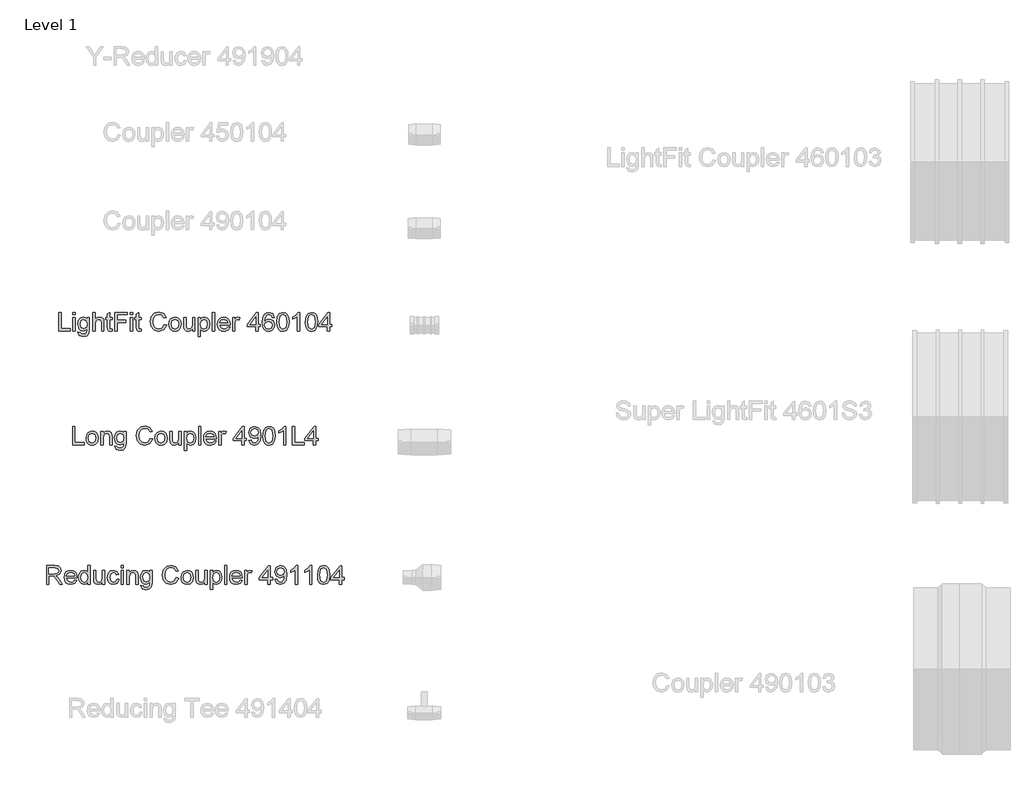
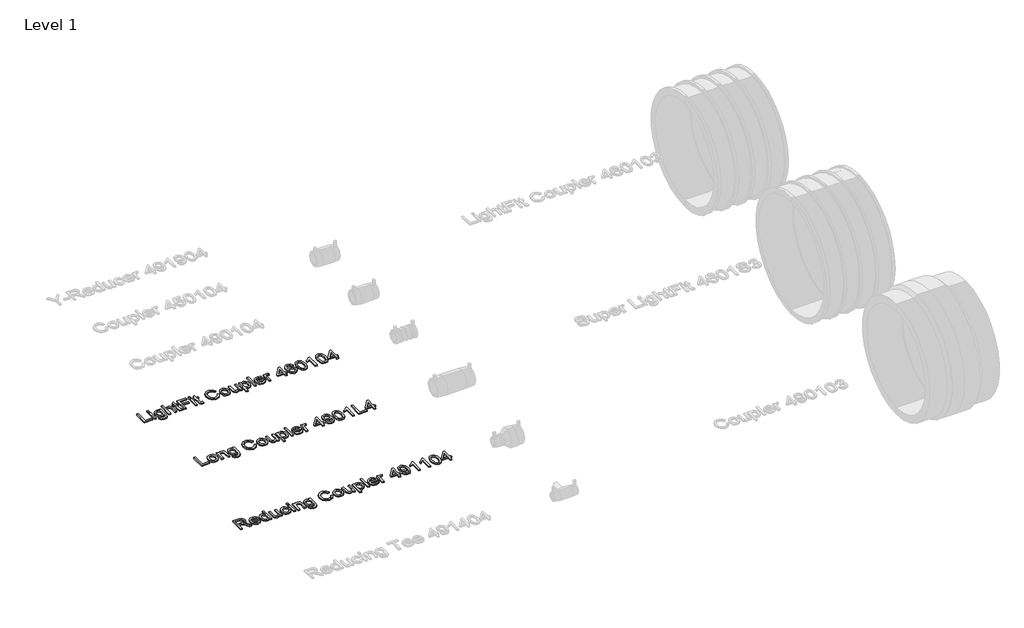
# One storey, part 2 of 38: 3 proxies.
"""IFC4 building model written with IfcOpenShell, lengths in millimetres."""

from ifc_helpers import new_model, si_unit, origin, origin_with_axes, place, context, project, spatial, polyline, outline, extrude, element, save

model = new_model("IFC4")

# Units and contexts
model_context = context("Model", 3, world=origin())
ifc_project = project(units=[si_unit("LENGTHUNIT", "METRE", prefix="MILLI")], contexts=[model_context])

# Site, building, storey
site = spatial("IfcSite", under=ifc_project)
building = spatial("IfcBuilding", under=site)
storey = spatial("IfcBuildingStorey", under=building, Name="Level 1", Elevation=0.0)

# Proxies
placement = place(None, origin())
element("IfcBuildingElementProxy", 1, Name="100 mm Arial", ObjectType="100 mm Arial", at=placement, inside=storey, context=model_context, shape_type="SweptSolid", body=[
    extrude(outline(polyline([(811.427917, 3874.3643675), (811.427917, 3933.4412905), (818.8125324, 3933.4412905), (818.8125324, 3881.7489828), (848.3509939, 3881.7489828), (848.3509939, 3874.3643675), (811.427917, 3874.3643675)])), origin_with_axes(), (0.0, 0.0, 1.0), 5.0),
    extrude(outline(polyline([(855.7356093, 3926.0566752), (855.7356093, 3933.4412905), (863.1202247, 3933.4412905), (863.1202247, 3926.0566752), (855.7356093, 3926.0566752)])), origin_with_axes(), (0.0, 0.0, 1.0), 5.0),
    extrude(outline(polyline([(855.7356093, 3874.3643675), (855.7356093, 3917.7489828), (863.1202247, 3917.7489828), (863.1202247, 3874.3643675), (855.7356093, 3874.3643675)])), origin_with_axes(), (0.0, 0.0, 1.0), 5.0),
    extrude(outline(polyline([(872.3509939, 3870.6720598), (879.7356093, 3869.7489828), (882.1298401, 3865.8547521), (889.2981093, 3864.2105213), (896.8558016, 3866.0710982), (900.4615709, 3871.2922521), (900.9663786, 3879.902829), (889.427917, 3874.3643675), (881.8143353, 3875.9761463), (876.1370516, 3880.8114828), (871.427917, 3896.2730213), (873.5408978, 3907.7177328), (879.6562824, 3915.8162905), (889.0673401, 3918.6720598), (895.6550805, 3917.0566752), (900.9663786, 3912.2105213), (900.9663786, 3917.7489828), (908.3509939, 3917.7489828), (908.3509939, 3880.2922521), (906.3317632, 3865.9485021), (899.9351286, 3859.277829), (889.1538786, 3856.8259059), (876.8726286, 3860.2802328), (872.3509939, 3870.6720598)]), holes=[polyline([(878.8125324, 3896.777829), (881.9639747, 3885.3475405), (889.8750324, 3881.7489828), (897.771667, 3885.3259059), (900.9663786, 3896.5614828), (897.677917, 3907.5735021), (889.7596478, 3911.2874444), (882.0072439, 3907.6311944), (878.8125324, 3896.777829)])]), origin_with_axes(), (0.0, 0.0, 1.0), 5.0),
    extrude(outline(polyline([(919.427917, 3874.3643675), (919.427917, 3933.4412905), (926.8125324, 3933.4412905), (926.8125324, 3911.7201367), (932.5709459, 3916.934079), (939.6634939, 3918.6720598), (947.9567632, 3916.7754252), (952.990417, 3911.5326367), (954.5048401, 3901.8259059), (954.5048401, 3874.3643675), (947.1202247, 3874.3643675), (947.1202247, 3901.0614828), (944.7692632, 3908.8499444), (938.1058016, 3911.2874444), (932.0553209, 3909.6432136), (928.0168593, 3905.1864828), (926.8125324, 3897.4124444), (926.8125324, 3874.3643675), (919.427917, 3874.3643675)])), origin_with_axes(), (0.0, 0.0, 1.0), 5.0),
    extrude(outline(polyline([(980.3509939, 3880.5230213), (981.2740709, 3874.1480213), (975.7500324, 3873.4412905), (969.5625324, 3874.6672521), (966.4759939, 3877.8835982), (965.5817632, 3886.2634059), (965.5817632, 3910.3643675), (960.0433016, 3910.3643675), (960.0433016, 3917.7489828), (965.5817632, 3917.7489828), (965.5817632, 3928.2922521), (972.9663786, 3932.6335982), (972.9663786, 3917.7489828), (980.3509939, 3917.7489828), (980.3509939, 3910.3643675), (972.9663786, 3910.3643675), (972.9663786, 3886.4797521), (973.3558016, 3882.6720598), (974.6178209, 3881.3235021), (977.1346478, 3880.8259059), (980.3509939, 3880.5230213)])), origin_with_axes(), (0.0, 0.0, 1.0), 5.0),
    extrude(outline(polyline([(988.6586863, 3874.3643675), (988.6586863, 3933.4412905), (1028.3509939, 3933.4412905), (1028.3509939, 3926.0566752), (996.0433016, 3926.0566752), (996.0433016, 3908.5182136), (1023.7356093, 3908.5182136), (1023.7356093, 3901.1335982), (996.0433016, 3901.1335982), (996.0433016, 3874.3643675), (988.6586863, 3874.3643675)])), origin_with_axes(), (0.0, 0.0, 1.0), 5.0),
    extrude(outline(polyline([(1037.5817632, 3874.3643675), (1037.5817632, 3917.7489828), (1044.9663786, 3917.7489828), (1044.9663786, 3874.3643675), (1037.5817632, 3874.3643675)])), origin_with_axes(), (0.0, 0.0, 1.0), 5.0),
    extrude(outline(polyline([(1037.5817632, 3926.0566752), (1037.5817632, 3933.4412905), (1044.9663786, 3933.4412905), (1044.9663786, 3926.0566752), (1037.5817632, 3926.0566752)])), origin_with_axes(), (0.0, 0.0, 1.0), 5.0),
    extrude(outline(polyline([(1071.7356093, 3880.5230213), (1072.6586863, 3874.1480213), (1067.1346478, 3873.4412905), (1060.9471478, 3874.6672521), (1057.8606093, 3877.8835982), (1056.9663786, 3886.2634059), (1056.9663786, 3910.3643675), (1051.427917, 3910.3643675), (1051.427917, 3917.7489828), (1056.9663786, 3917.7489828), (1056.9663786, 3928.2922521), (1064.3509939, 3932.6335982), (1064.3509939, 3917.7489828), (1071.7356093, 3917.7489828), (1071.7356093, 3910.3643675), (1064.3509939, 3910.3643675), (1064.3509939, 3886.4797521), (1064.740417, 3882.6720598), (1066.0024363, 3881.3235021), (1068.5192632, 3880.8259059), (1071.7356093, 3880.5230213)])), origin_with_axes(), (0.0, 0.0, 1.0), 5.0),
    extrude(outline(polyline([(1144.6586863, 3895.3643675), (1152.0433016, 3893.4605213), (1143.2884939, 3878.5686944), (1127.8269555, 3873.4412905), (1112.459167, 3877.3210982), (1103.4447439, 3888.5566752), (1100.3509939, 3904.3499444), (1103.8485901, 3920.402829), (1113.7933016, 3930.809079), (1127.9856093, 3934.3643675), (1142.7764747, 3929.7634059), (1151.1202247, 3916.8114828), (1143.7356093, 3915.0518675), (1137.677917, 3924.1311944), (1127.6971478, 3926.9797521), (1116.1442632, 3923.8210982), (1109.6178209, 3915.340329), (1107.7356093, 3904.3643675), (1109.9639747, 3891.6432136), (1116.9014747, 3883.5158098), (1127.0913786, 3880.8259059), (1138.3918593, 3884.4893675), (1144.6586863, 3895.3643675)])), origin_with_axes(), (0.0, 0.0, 1.0), 5.0),
    extrude(outline(polyline([(1159.427917, 3896.0566752), (1161.0252728, 3906.5170117), (1165.8173401, 3913.8691752), (1178.8269555, 3918.6720598), (1186.584768, 3917.2099203), (1192.7812824, 3912.8235021), (1196.8431814, 3905.8589588), (1198.1971478, 3896.6624444), (1195.802917, 3883.5230213), (1188.8293593, 3876.0879252), (1178.8269555, 3873.4412905), (1170.975393, 3874.8980213), (1164.7860901, 3879.2682136), (1160.7674603, 3886.3787905), (1159.427917, 3896.0566752)]), holes=[polyline([(1166.8125324, 3896.0710982), (1170.2308016, 3884.6263867), (1178.8269555, 3880.8259059), (1187.3942632, 3884.6480213), (1190.8125324, 3896.3018675), (1187.3726286, 3907.4869636), (1178.8269555, 3911.2874444), (1170.2308016, 3907.5013867), (1166.8125324, 3896.0710982)])]), origin_with_axes(), (0.0, 0.0, 1.0), 5.0),
    extrude(outline(polyline([(1234.1971478, 3874.3643675), (1234.1971478, 3881.8210982), (1228.4134939, 3875.5362425), (1220.8702247, 3873.4412905), (1213.9255132, 3874.9124444), (1209.1370516, 3878.6047521), (1206.9375324, 3884.0422521), (1206.5048401, 3890.9076367), (1206.5048401, 3917.7489828), (1213.8894555, 3917.7489828), (1213.8894555, 3894.3835982), (1214.3365709, 3886.8547521), (1217.2572439, 3882.434079), (1222.7596478, 3880.8259059), (1228.9255132, 3882.4701367), (1233.0000324, 3886.9485021), (1234.1971478, 3895.1768675), (1234.1971478, 3917.7489828), (1241.5817632, 3917.7489828), (1241.5817632, 3874.3643675), (1234.1971478, 3874.3643675)])), origin_with_axes(), (0.0, 0.0, 1.0), 5.0),
    extrude(outline(polyline([(1251.7356093, 3857.7489828), (1251.7356093, 3917.7489828), (1259.1202247, 3917.7489828), (1259.1202247, 3910.5085982), (1264.2259939, 3916.6311944), (1271.1202247, 3918.6720598), (1280.4808016, 3915.8162905), (1286.5961863, 3907.7682136), (1288.6586863, 3896.3884059), (1286.3293593, 3884.4244636), (1279.5649363, 3876.2754252), (1270.2259939, 3873.4412905), (1263.8005132, 3875.3379252), (1259.1202247, 3880.1335982), (1259.1202247, 3857.7489828), (1251.7356093, 3857.7489828)]), holes=[polyline([(1259.1202247, 3895.7105213), (1262.3149363, 3884.4605213), (1270.0673401, 3880.8259059), (1277.9783978, 3884.590329), (1281.2740709, 3896.2585982), (1278.0577247, 3907.5374444), (1270.3702247, 3911.2874444), (1262.5312824, 3907.2994636), (1259.1202247, 3895.7105213)])]), origin_with_axes(), (0.0, 0.0, 1.0), 5.0),
    extrude(outline(polyline([(1296.9663786, 3874.3643675), (1296.9663786, 3933.4412905), (1304.3509939, 3933.4412905), (1304.3509939, 3874.3643675), (1296.9663786, 3874.3643675)])), origin_with_axes(), (0.0, 0.0, 1.0), 5.0),
    extrude(outline(polyline([(1345.802917, 3887.2874444), (1353.0433016, 3886.3643675), (1346.271667, 3876.8307136), (1333.6586863, 3873.4412905), (1324.9940228, 3874.90343), (1318.3269555, 3879.2898482), (1314.0757536, 3886.3156896), (1312.6586863, 3895.6960982), (1314.0901766, 3905.3920117), (1318.3846478, 3912.6432136), (1324.9615709, 3917.1648482), (1333.240417, 3918.6720598), (1341.2614507, 3917.168454), (1347.6707055, 3912.6576367), (1351.8732295, 3905.4208578), (1353.2740709, 3895.7393675), (1353.2308016, 3893.7489828), (1320.0433016, 3893.7489828), (1324.2908978, 3884.1576367), (1333.802917, 3880.8259059), (1341.0433016, 3882.3691752), (1345.802917, 3887.2874444)]), holes=[polyline([(1320.0433016, 3901.1335982), (1345.8894555, 3901.1335982), (1342.9327247, 3907.8259059), (1333.2115709, 3911.2874444), (1324.1178209, 3908.5254252), (1320.0433016, 3901.1335982)])]), origin_with_axes(), (0.0, 0.0, 1.0), 5.0),
    extrude(outline(polyline([(1360.6586863, 3874.3643675), (1360.6586863, 3917.7489828), (1367.1202247, 3917.7489828), (1367.1202247, 3911.3307136), (1371.7067632, 3917.2441752), (1376.3221478, 3918.6720598), (1383.7356093, 3916.3932136), (1381.2692632, 3909.7730213), (1376.0769555, 3911.2874444), (1371.9014747, 3909.8307136), (1369.240417, 3905.7922521), (1368.0433016, 3897.1672521), (1368.0433016, 3874.3643675), (1360.6586863, 3874.3643675)])), origin_with_axes(), (0.0, 0.0, 1.0), 5.0),
    extrude(outline(polyline([(1433.5817632, 3874.3643675), (1433.5817632, 3888.2105213), (1406.8125324, 3888.2105213), (1406.8125324, 3895.5951367), (1435.427917, 3932.5182136), (1440.9663786, 3932.5182136), (1440.9663786, 3895.5951367), (1448.3509939, 3895.5951367), (1448.3509939, 3888.2105213), (1440.9663786, 3888.2105213), (1440.9663786, 3874.3643675), (1433.5817632, 3874.3643675)]), holes=[polyline([(1433.5817632, 3895.5951367), (1433.5817632, 3918.4124444), (1415.8990709, 3895.5951367), (1433.5817632, 3895.5951367)])]), origin_with_axes(), (0.0, 0.0, 1.0), 5.0),
    extrude(outline(polyline([(1492.6586863, 3917.7489828), (1485.2740709, 3916.8259059), (1482.4759939, 3922.9845598), (1475.0769555, 3926.0566752), (1468.4134939, 3924.2682136), (1463.3726286, 3917.5542713), (1461.2740709, 3904.3932136), (1467.7860901, 3910.2850405), (1475.8558016, 3912.2105213), (1488.4038786, 3906.9460982), (1493.5817632, 3893.3451367), (1491.1442632, 3883.1552328), (1484.4375324, 3875.9436944), (1474.7596478, 3873.4412905), (1466.381643, 3875.0999444), (1459.709167, 3880.0759059), (1455.3443834, 3888.8595598), (1453.8894555, 3901.9412905), (1455.5048401, 3916.6492232), (1460.3509939, 3926.7057136), (1466.9675805, 3931.7573963), (1475.5384939, 3933.4412905), (1487.2067632, 3929.2730213), (1492.6586863, 3917.7489828)]), holes=[polyline([(1461.2740709, 3893.4605213), (1462.9832055, 3887.0638867), (1467.5264747, 3882.4196559), (1474.1827247, 3880.8259059), (1482.8870516, 3884.1287905), (1486.1971478, 3893.0999444), (1482.9303209, 3901.6888867), (1473.8798401, 3904.8259059), (1464.9447439, 3901.6888867), (1461.2740709, 3893.4605213)])]), origin_with_axes(), (0.0, 0.0, 1.0), 5.0),
    extrude(outline(polyline([(1500.0433016, 3903.4268675), (1502.2139747, 3920.4244636), (1508.6610901, 3930.2249444), (1519.427917, 3933.4412905), (1528.052917, 3931.5374444), (1534.0096478, 3926.0494636), (1537.4711863, 3917.309079), (1538.8125324, 3903.4268675), (1536.6634939, 3886.5013867), (1530.2380132, 3876.6792713), (1519.427917, 3873.4412905), (1511.7548401, 3874.8475405), (1505.927917, 3879.0662905), (1501.5144555, 3889.0578771), (1500.0433016, 3903.4268675)]), holes=[polyline([(1507.427917, 3903.4412905), (1510.8894555, 3885.1023482), (1519.427917, 3880.8259059), (1527.9663786, 3885.1167713), (1531.427917, 3903.4412905), (1528.0817632, 3921.5710982), (1519.3413786, 3926.0566752), (1511.0048401, 3922.1047521), (1507.427917, 3903.4412905)])]), origin_with_axes(), (0.0, 0.0, 1.0), 5.0),
    extrude(outline(polyline([(1572.9663786, 3874.3643675), (1565.5817632, 3874.3643675), (1565.5817632, 3920.402829), (1558.5865709, 3915.4196559), (1550.8125324, 3911.6912905), (1550.8125324, 3918.6720598), (1561.6370516, 3925.5807136), (1568.2067632, 3933.4412905), (1572.9663786, 3933.4412905), (1572.9663786, 3874.3643675)])), origin_with_axes(), (0.0, 0.0, 1.0), 5.0),
    extrude(outline(polyline([(1590.5048401, 3903.4268675), (1592.6755132, 3920.4244636), (1599.1226286, 3930.2249444), (1609.8894555, 3933.4412905), (1618.5144555, 3931.5374444), (1624.4711863, 3926.0494636), (1627.9327247, 3917.309079), (1629.2740709, 3903.4268675), (1627.1250324, 3886.5013867), (1620.6995516, 3876.6792713), (1609.8894555, 3873.4412905), (1602.2163786, 3874.8475405), (1596.3894555, 3879.0662905), (1591.9759939, 3889.0578771), (1590.5048401, 3903.4268675)]), holes=[polyline([(1597.8894555, 3903.4412905), (1601.3509939, 3885.1023482), (1609.8894555, 3880.8259059), (1618.427917, 3885.1167713), (1621.8894555, 3903.4412905), (1618.5433016, 3921.5710982), (1609.802917, 3926.0566752), (1601.4663786, 3922.1047521), (1597.8894555, 3903.4412905)])]), origin_with_axes(), (0.0, 0.0, 1.0), 5.0),
    extrude(outline(polyline([(1659.7356093, 3874.3643675), (1659.7356093, 3888.2105213), (1632.9663786, 3888.2105213), (1632.9663786, 3895.5951367), (1661.5817632, 3932.5182136), (1667.1202247, 3932.5182136), (1667.1202247, 3895.5951367), (1674.5048401, 3895.5951367), (1674.5048401, 3888.2105213), (1667.1202247, 3888.2105213), (1667.1202247, 3874.3643675), (1659.7356093, 3874.3643675)]), holes=[polyline([(1659.7356093, 3895.5951367), (1659.7356093, 3918.4124444), (1642.052917, 3895.5951367), (1659.7356093, 3895.5951367)])]), origin_with_axes(), (0.0, 0.0, 1.0), 5.0),
])
element("IfcBuildingElementProxy", 2, Name="100 mm Arial", ObjectType="100 mm Arial", at=placement, inside=storey, context=model_context, shape_type="SweptSolid", body=[
    extrude(outline(polyline([(855.2740709, 3514.3643675), (855.2740709, 3573.4412905), (862.6586863, 3573.4412905), (862.6586863, 3521.7489828), (892.1971478, 3521.7489828), (892.1971478, 3514.3643675), (855.2740709, 3514.3643675)])), origin_with_axes(), (0.0, 0.0, 1.0), 5.0),
    extrude(outline(polyline([(897.7356093, 3536.0566752), (899.3329651, 3546.5170117), (904.1250324, 3553.8691752), (917.1346478, 3558.6720598), (924.8924603, 3557.2099203), (931.0889747, 3552.8235021), (935.1508738, 3545.8589588), (936.5048401, 3536.6624444), (934.1106093, 3523.5230213), (927.1370516, 3516.0879252), (917.1346478, 3513.4412905), (909.2830853, 3514.8980213), (903.0937824, 3519.2682136), (899.0751526, 3526.3787905), (897.7356093, 3536.0566752)]), holes=[polyline([(905.1202247, 3536.0710982), (908.5384939, 3524.6263867), (917.1346478, 3520.8259059), (925.7019555, 3524.6480213), (929.1202247, 3536.3018675), (925.6803209, 3547.4869636), (917.1346478, 3551.2874444), (908.5384939, 3547.5013867), (905.1202247, 3536.0710982)])]), origin_with_axes(), (0.0, 0.0, 1.0), 5.0),
    extrude(outline(polyline([(944.8125324, 3514.3643675), (944.8125324, 3557.7489828), (952.1971478, 3557.7489828), (952.1971478, 3551.6912905), (957.8437824, 3556.9268675), (965.552917, 3558.6720598), (972.5264747, 3557.2658098), (977.2860901, 3553.5735021), (979.5000324, 3548.1432136), (979.8894555, 3541.0037905), (979.8894555, 3514.3643675), (972.5048401, 3514.3643675), (972.5048401, 3540.0085982), (971.6538786, 3546.5422521), (968.646667, 3549.996579), (963.5769555, 3551.2874444), (955.5649363, 3548.3884059), (952.1971478, 3537.3835982), (952.1971478, 3514.3643675), (944.8125324, 3514.3643675)])), origin_with_axes(), (0.0, 0.0, 1.0), 5.0),
    extrude(outline(polyline([(988.1971478, 3510.6720598), (995.5817632, 3509.7489828), (997.9759939, 3505.8547521), (1005.1442632, 3504.2105213), (1012.7019555, 3506.0710982), (1016.3077247, 3511.2922521), (1016.8125324, 3519.902829), (1005.2740709, 3514.3643675), (997.6604891, 3515.9761463), (991.9832055, 3520.8114828), (987.2740709, 3536.2730213), (989.3870516, 3547.7177328), (995.5024363, 3555.8162905), (1004.9134939, 3558.6720598), (1011.5012343, 3557.0566752), (1016.8125324, 3552.2105213), (1016.8125324, 3557.7489828), (1024.1971478, 3557.7489828), (1024.1971478, 3520.2922521), (1022.177917, 3505.9485021), (1015.7812824, 3499.277829), (1005.0000324, 3496.8259059), (992.7187824, 3500.2802328), (988.1971478, 3510.6720598)]), holes=[polyline([(994.6586863, 3536.777829), (997.8101286, 3525.3475405), (1005.7211863, 3521.7489828), (1013.6178209, 3525.3259059), (1016.8125324, 3536.5614828), (1013.5240709, 3547.5735021), (1005.6058016, 3551.2874444), (997.8533978, 3547.6311944), (994.6586863, 3536.777829)])]), origin_with_axes(), (0.0, 0.0, 1.0), 5.0),
    extrude(outline(polyline([(1100.8125324, 3535.3643675), (1108.1971478, 3533.4605213), (1099.4423401, 3518.5686944), (1083.9808016, 3513.4412905), (1068.6130132, 3517.3210982), (1059.5985901, 3528.5566752), (1056.5048401, 3544.3499444), (1060.0024363, 3560.402829), (1069.9471478, 3570.809079), (1084.1394555, 3574.3643675), (1098.9303209, 3569.7634059), (1107.2740709, 3556.8114828), (1099.8894555, 3555.0518675), (1093.8317632, 3564.1311944), (1083.8509939, 3566.9797521), (1072.2981093, 3563.8210982), (1065.771667, 3555.340329), (1063.8894555, 3544.3643675), (1066.1178209, 3531.6432136), (1073.0553209, 3523.5158098), (1083.2452247, 3520.8259059), (1094.5457055, 3524.4893675), (1100.8125324, 3535.3643675)])), origin_with_axes(), (0.0, 0.0, 1.0), 5.0),
    extrude(outline(polyline([(1115.5817632, 3536.0566752), (1117.1791189, 3546.5170117), (1121.9711863, 3553.8691752), (1134.9808016, 3558.6720598), (1142.7386141, 3557.2099203), (1148.9351286, 3552.8235021), (1152.9970276, 3545.8589588), (1154.3509939, 3536.6624444), (1151.9567632, 3523.5230213), (1144.9832055, 3516.0879252), (1134.9808016, 3513.4412905), (1127.1292391, 3514.8980213), (1120.9399363, 3519.2682136), (1116.9213064, 3526.3787905), (1115.5817632, 3536.0566752)]), holes=[polyline([(1122.9663786, 3536.0710982), (1126.3846478, 3524.6263867), (1134.9808016, 3520.8259059), (1143.5481093, 3524.6480213), (1146.9663786, 3536.3018675), (1143.5264747, 3547.4869636), (1134.9808016, 3551.2874444), (1126.3846478, 3547.5013867), (1122.9663786, 3536.0710982)])]), origin_with_axes(), (0.0, 0.0, 1.0), 5.0),
    extrude(outline(polyline([(1190.3509939, 3514.3643675), (1190.3509939, 3521.8210982), (1184.5673401, 3515.5362425), (1177.0240709, 3513.4412905), (1170.0793593, 3514.9124444), (1165.2908978, 3518.6047521), (1163.0913786, 3524.0422521), (1162.6586863, 3530.9076367), (1162.6586863, 3557.7489828), (1170.0433016, 3557.7489828), (1170.0433016, 3534.3835982), (1170.490417, 3526.8547521), (1173.4110901, 3522.434079), (1178.9134939, 3520.8259059), (1185.0793593, 3522.4701367), (1189.1538786, 3526.9485021), (1190.3509939, 3535.1768675), (1190.3509939, 3557.7489828), (1197.7356093, 3557.7489828), (1197.7356093, 3514.3643675), (1190.3509939, 3514.3643675)])), origin_with_axes(), (0.0, 0.0, 1.0), 5.0),
    extrude(outline(polyline([(1207.8894555, 3497.7489828), (1207.8894555, 3557.7489828), (1215.2740709, 3557.7489828), (1215.2740709, 3550.5085982), (1220.3798401, 3556.6311944), (1227.2740709, 3558.6720598), (1236.6346478, 3555.8162905), (1242.7500324, 3547.7682136), (1244.8125324, 3536.3884059), (1242.4832055, 3524.4244636), (1235.7187824, 3516.2754252), (1226.3798401, 3513.4412905), (1219.9543593, 3515.3379252), (1215.2740709, 3520.1335982), (1215.2740709, 3497.7489828), (1207.8894555, 3497.7489828)]), holes=[polyline([(1215.2740709, 3535.7105213), (1218.4687824, 3524.4605213), (1226.2211863, 3520.8259059), (1234.1322439, 3524.590329), (1237.427917, 3536.2585982), (1234.2115709, 3547.5374444), (1226.5240709, 3551.2874444), (1218.6851286, 3547.2994636), (1215.2740709, 3535.7105213)])]), origin_with_axes(), (0.0, 0.0, 1.0), 5.0),
    extrude(outline(polyline([(1253.1202247, 3514.3643675), (1253.1202247, 3573.4412905), (1260.5048401, 3573.4412905), (1260.5048401, 3514.3643675), (1253.1202247, 3514.3643675)])), origin_with_axes(), (0.0, 0.0, 1.0), 5.0),
    extrude(outline(polyline([(1301.9567632, 3527.2874444), (1309.1971478, 3526.3643675), (1302.4255132, 3516.8307136), (1289.8125324, 3513.4412905), (1281.1478689, 3514.90343), (1274.4808016, 3519.2898482), (1270.2295997, 3526.3156896), (1268.8125324, 3535.6960982), (1270.2440228, 3545.3920117), (1274.5384939, 3552.6432136), (1281.115417, 3557.1648482), (1289.3942632, 3558.6720598), (1297.4152968, 3557.168454), (1303.8245516, 3552.6576367), (1308.0270757, 3545.4208578), (1309.427917, 3535.7393675), (1309.3846478, 3533.7489828), (1276.1971478, 3533.7489828), (1280.4447439, 3524.1576367), (1289.9567632, 3520.8259059), (1297.1971478, 3522.3691752), (1301.9567632, 3527.2874444)]), holes=[polyline([(1276.1971478, 3541.1335982), (1302.0433016, 3541.1335982), (1299.0865709, 3547.8259059), (1289.365417, 3551.2874444), (1280.271667, 3548.5254252), (1276.1971478, 3541.1335982)])]), origin_with_axes(), (0.0, 0.0, 1.0), 5.0),
    extrude(outline(polyline([(1316.8125324, 3514.3643675), (1316.8125324, 3557.7489828), (1323.2740709, 3557.7489828), (1323.2740709, 3551.3307136), (1327.8606093, 3557.2441752), (1332.4759939, 3558.6720598), (1339.8894555, 3556.3932136), (1337.4231093, 3549.7730213), (1332.2308016, 3551.2874444), (1328.0553209, 3549.8307136), (1325.3942632, 3545.7922521), (1324.1971478, 3537.1672521), (1324.1971478, 3514.3643675), (1316.8125324, 3514.3643675)])), origin_with_axes(), (0.0, 0.0, 1.0), 5.0),
    extrude(outline(polyline([(1389.7356093, 3514.3643675), (1389.7356093, 3528.2105213), (1362.9663786, 3528.2105213), (1362.9663786, 3535.5951367), (1391.5817632, 3572.5182136), (1397.1202247, 3572.5182136), (1397.1202247, 3535.5951367), (1404.5048401, 3535.5951367), (1404.5048401, 3528.2105213), (1397.1202247, 3528.2105213), (1397.1202247, 3514.3643675), (1389.7356093, 3514.3643675)]), holes=[polyline([(1389.7356093, 3535.5951367), (1389.7356093, 3558.4124444), (1372.052917, 3535.5951367), (1389.7356093, 3535.5951367)])]), origin_with_axes(), (0.0, 0.0, 1.0), 5.0),
    extrude(outline(polyline([(1411.8894555, 3529.1335982), (1419.2740709, 3530.0566752), (1422.5913786, 3523.0110021), (1428.8798401, 3520.8259059), (1434.8582055, 3522.2321559), (1438.9110901, 3525.9893675), (1441.3269555, 3532.4076367), (1442.3942632, 3540.9749444), (1436.4447439, 3536.8210982), (1428.3461863, 3534.6720598), (1416.0072439, 3539.9220598), (1410.9663786, 3553.7537905), (1416.2524363, 3568.0326367), (1429.5000324, 3573.4412905), (1440.021667, 3570.3547521), (1447.2620516, 3561.5566752), (1449.7356093, 3545.027829), (1447.2692632, 3527.0927328), (1439.9351286, 3516.9316752), (1428.5336863, 3513.4412905), (1417.1827247, 3517.559079), (1411.8894555, 3529.1335982)]), holes=[polyline([(1442.3509939, 3553.9268675), (1439.1634939, 3562.7826367), (1430.6971478, 3566.0566752), (1421.8125324, 3562.5302328), (1418.3509939, 3553.3932136), (1421.6250324, 3545.2081175), (1430.4952247, 3542.0566752), (1439.0120516, 3545.2081175), (1442.3509939, 3553.9268675)])]), origin_with_axes(), (0.0, 0.0, 1.0), 5.0),
    extrude(outline(polyline([(1456.1971478, 3543.4268675), (1458.3678209, 3560.4244636), (1464.8149363, 3570.2249444), (1475.5817632, 3573.4412905), (1484.2067632, 3571.5374444), (1490.1634939, 3566.0494636), (1493.6250324, 3557.309079), (1494.9663786, 3543.4268675), (1492.8173401, 3526.5013867), (1486.3918593, 3516.6792713), (1475.5817632, 3513.4412905), (1467.9086863, 3514.8475405), (1462.0817632, 3519.0662905), (1457.6683016, 3529.0578771), (1456.1971478, 3543.4268675)]), holes=[polyline([(1463.5817632, 3543.4412905), (1467.0433016, 3525.1023482), (1475.5817632, 3520.8259059), (1484.1202247, 3525.1167713), (1487.5817632, 3543.4412905), (1484.2356093, 3561.5710982), (1475.4952247, 3566.0566752), (1467.1586863, 3562.1047521), (1463.5817632, 3543.4412905)])]), origin_with_axes(), (0.0, 0.0, 1.0), 5.0),
    extrude(outline(polyline([(1529.1202247, 3514.3643675), (1521.7356093, 3514.3643675), (1521.7356093, 3560.402829), (1514.740417, 3555.4196559), (1506.9663786, 3551.6912905), (1506.9663786, 3558.6720598), (1517.7908978, 3565.5807136), (1524.3606093, 3573.4412905), (1529.1202247, 3573.4412905), (1529.1202247, 3514.3643675)])), origin_with_axes(), (0.0, 0.0, 1.0), 5.0),
    extrude(outline(polyline([(1549.427917, 3514.3643675), (1549.427917, 3573.4412905), (1556.8125324, 3573.4412905), (1556.8125324, 3521.7489828), (1586.3509939, 3521.7489828), (1586.3509939, 3514.3643675), (1549.427917, 3514.3643675)])), origin_with_axes(), (0.0, 0.0, 1.0), 5.0),
    extrude(outline(polyline([(1615.8894555, 3514.3643675), (1615.8894555, 3528.2105213), (1589.1202247, 3528.2105213), (1589.1202247, 3535.5951367), (1617.7356093, 3572.5182136), (1623.2740709, 3572.5182136), (1623.2740709, 3535.5951367), (1630.6586863, 3535.5951367), (1630.6586863, 3528.2105213), (1623.2740709, 3528.2105213), (1623.2740709, 3514.3643675), (1615.8894555, 3514.3643675)]), holes=[polyline([(1615.8894555, 3535.5951367), (1615.8894555, 3558.4124444), (1598.2067632, 3535.5951367), (1615.8894555, 3535.5951367)])]), origin_with_axes(), (0.0, 0.0, 1.0), 5.0),
])
element("IfcBuildingElementProxy", 3, Name="100 mm Arial", ObjectType="100 mm Arial", at=placement, inside=storey, context=model_context, shape_type="SweptSolid", body=[
    extrude(outline(polyline([(773.1202247, 3074.3643675), (773.1202247, 3133.4412905), (798.5769555, 3133.4412905), (810.396667, 3131.8475405), (816.8582055, 3126.2081175), (819.2740709, 3117.2730213), (815.271667, 3106.6287905), (802.9038786, 3101.1335982), (807.1009939, 3097.9749444), (813.0865709, 3090.3739828), (822.9375324, 3074.3643675), (814.3558016, 3074.3643675), (806.6683016, 3086.6095598), (801.115417, 3094.715329), (797.2139747, 3098.5446559), (793.7019555, 3099.9509059), (789.4183016, 3100.2105213), (780.5048401, 3100.2105213), (780.5048401, 3074.3643675), (773.1202247, 3074.3643675)]), holes=[polyline([(780.5048401, 3107.5951367), (797.0336863, 3107.5951367), (805.4639747, 3108.6408098), (810.2524363, 3111.9869636), (811.8894555, 3116.9989828), (808.7668593, 3123.5037905), (798.8942632, 3126.0566752), (780.5048401, 3126.0566752), (780.5048401, 3107.5951367)])]), origin_with_axes(), (0.0, 0.0, 1.0), 5.0),
    extrude(outline(polyline([(861.6490709, 3087.2874444), (868.8894555, 3086.3643675), (862.1178209, 3076.8307136), (849.5048401, 3073.4412905), (840.8401766, 3074.90343), (834.1731093, 3079.2898482), (829.9219074, 3086.3156896), (828.5048401, 3095.6960982), (829.9363305, 3105.3920117), (834.2308016, 3112.6432136), (840.8077247, 3117.1648482), (849.0865709, 3118.6720598), (857.1076045, 3117.168454), (863.5168593, 3112.6576367), (867.7193834, 3105.4208578), (869.1202247, 3095.7393675), (869.0769555, 3093.7489828), (835.8894555, 3093.7489828), (840.1370516, 3084.1576367), (849.6490709, 3080.8259059), (856.8894555, 3082.3691752), (861.6490709, 3087.2874444)]), holes=[polyline([(835.8894555, 3101.1335982), (861.7356093, 3101.1335982), (858.7788786, 3107.8259059), (849.0577247, 3111.2874444), (839.9639747, 3108.5254252), (835.8894555, 3101.1335982)])]), origin_with_axes(), (0.0, 0.0, 1.0), 5.0),
    extrude(outline(polyline([(903.2740709, 3074.3643675), (903.2740709, 3081.3307136), (898.3882536, 3075.4136463), (891.6346478, 3073.4412905), (882.490417, 3076.2970598), (876.0288786, 3084.2658098), (873.7356093, 3096.0134059), (875.8485901, 3107.7682136), (882.1803209, 3115.8595598), (891.6058016, 3118.6720598), (898.4134939, 3116.6600405), (903.2740709, 3111.4316752), (903.2740709, 3133.4412905), (910.6586863, 3133.4412905), (910.6586863, 3074.3643675), (903.2740709, 3074.3643675)]), holes=[polyline([(881.1202247, 3096.0422521), (884.4519555, 3084.6119636), (892.3125324, 3080.8259059), (900.0793593, 3084.4388867), (903.2740709, 3095.4797521), (900.021667, 3107.465329), (892.0096478, 3111.2874444), (884.2356093, 3107.6167713), (881.1202247, 3096.0422521)])]), origin_with_axes(), (0.0, 0.0, 1.0), 5.0),
    extrude(outline(polyline([(949.427917, 3074.3643675), (949.427917, 3081.8210982), (943.6442632, 3075.5362425), (936.1009939, 3073.4412905), (929.1562824, 3074.9124444), (924.3678209, 3078.6047521), (922.1683016, 3084.0422521), (921.7356093, 3090.9076367), (921.7356093, 3117.7489828), (929.1202247, 3117.7489828), (929.1202247, 3094.3835982), (929.5673401, 3086.8547521), (932.4880132, 3082.434079), (937.990417, 3080.8259059), (944.1562824, 3082.4701367), (948.2308016, 3086.9485021), (949.427917, 3095.1768675), (949.427917, 3117.7489828), (956.8125324, 3117.7489828), (956.8125324, 3074.3643675), (949.427917, 3074.3643675)])), origin_with_axes(), (0.0, 0.0, 1.0), 5.0),
    extrude(outline(polyline([(994.6586863, 3090.0566752), (1002.0433016, 3089.1335982), (996.115417, 3077.6023482), (984.4038786, 3073.4412905), (976.5487103, 3074.8926127), (970.4062824, 3079.246579), (966.4417391, 3086.3120838), (965.1202247, 3095.8980213), (967.3774363, 3108.1648482), (974.2572439, 3116.0470598), (984.302917, 3118.6720598), (995.5312824, 3115.0662905), (1001.1202247, 3104.8259059), (993.7356093, 3103.902829), (990.3101286, 3109.434079), (984.3606093, 3111.2874444), (975.8005132, 3107.6384059), (972.5048401, 3096.0999444), (975.7283978, 3084.4533098), (984.1586863, 3080.8259059), (991.1178209, 3083.090329), (994.6586863, 3090.0566752)])), origin_with_axes(), (0.0, 0.0, 1.0), 5.0),
    extrude(outline(polyline([(1008.5048401, 3126.0566752), (1008.5048401, 3133.4412905), (1015.8894555, 3133.4412905), (1015.8894555, 3126.0566752), (1008.5048401, 3126.0566752)])), origin_with_axes(), (0.0, 0.0, 1.0), 5.0),
    extrude(outline(polyline([(1008.5048401, 3074.3643675), (1008.5048401, 3117.7489828), (1015.8894555, 3117.7489828), (1015.8894555, 3074.3643675), (1008.5048401, 3074.3643675)])), origin_with_axes(), (0.0, 0.0, 1.0), 5.0),
    extrude(outline(polyline([(1026.9663786, 3074.3643675), (1026.9663786, 3117.7489828), (1034.3509939, 3117.7489828), (1034.3509939, 3111.6912905), (1039.9976286, 3116.9268675), (1047.7067632, 3118.6720598), (1054.6803209, 3117.2658098), (1059.4399363, 3113.5735021), (1061.6538786, 3108.1432136), (1062.0433016, 3101.0037905), (1062.0433016, 3074.3643675), (1054.6586863, 3074.3643675), (1054.6586863, 3100.0085982), (1053.8077247, 3106.5422521), (1050.8005132, 3109.996579), (1045.7308016, 3111.2874444), (1037.7187824, 3108.3884059), (1034.3509939, 3097.3835982), (1034.3509939, 3074.3643675), (1026.9663786, 3074.3643675)])), origin_with_axes(), (0.0, 0.0, 1.0), 5.0),
    extrude(outline(polyline([(1070.3509939, 3070.6720598), (1077.7356093, 3069.7489828), (1080.1298401, 3065.8547521), (1087.2981093, 3064.2105213), (1094.8558016, 3066.0710982), (1098.4615709, 3071.2922521), (1098.9663786, 3079.902829), (1087.427917, 3074.3643675), (1079.8143353, 3075.9761463), (1074.1370516, 3080.8114828), (1069.427917, 3096.2730213), (1071.5408978, 3107.7177328), (1077.6562824, 3115.8162905), (1087.0673401, 3118.6720598), (1093.6550805, 3117.0566752), (1098.9663786, 3112.2105213), (1098.9663786, 3117.7489828), (1106.3509939, 3117.7489828), (1106.3509939, 3080.2922521), (1104.3317632, 3065.9485021), (1097.9351286, 3059.277829), (1087.1538786, 3056.8259059), (1074.8726286, 3060.2802328), (1070.3509939, 3070.6720598)]), holes=[polyline([(1076.8125324, 3096.777829), (1079.9639747, 3085.3475405), (1087.8750324, 3081.7489828), (1095.771667, 3085.3259059), (1098.9663786, 3096.5614828), (1095.677917, 3107.5735021), (1087.7596478, 3111.2874444), (1080.0072439, 3107.6311944), (1076.8125324, 3096.777829)])]), origin_with_axes(), (0.0, 0.0, 1.0), 5.0),
    extrude(outline(polyline([(1182.9663786, 3095.3643675), (1190.3509939, 3093.4605213), (1181.5961863, 3078.5686944), (1166.1346478, 3073.4412905), (1150.7668593, 3077.3210982), (1141.7524363, 3088.5566752), (1138.6586863, 3104.3499444), (1142.1562824, 3120.402829), (1152.1009939, 3130.809079), (1166.2933016, 3134.3643675), (1181.084167, 3129.7634059), (1189.427917, 3116.8114828), (1182.0433016, 3115.0518675), (1175.9856093, 3124.1311944), (1166.0048401, 3126.9797521), (1154.4519555, 3123.8210982), (1147.9255132, 3115.340329), (1146.0433016, 3104.3643675), (1148.271667, 3091.6432136), (1155.209167, 3083.5158098), (1165.3990709, 3080.8259059), (1176.6995516, 3084.4893675), (1182.9663786, 3095.3643675)])), origin_with_axes(), (0.0, 0.0, 1.0), 5.0),
    extrude(outline(polyline([(1197.7356093, 3096.0566752), (1199.3329651, 3106.5170117), (1204.1250324, 3113.8691752), (1217.1346478, 3118.6720598), (1224.8924603, 3117.2099203), (1231.0889747, 3112.8235021), (1235.1508738, 3105.8589588), (1236.5048401, 3096.6624444), (1234.1106093, 3083.5230213), (1227.1370516, 3076.0879252), (1217.1346478, 3073.4412905), (1209.2830853, 3074.8980213), (1203.0937824, 3079.2682136), (1199.0751526, 3086.3787905), (1197.7356093, 3096.0566752)]), holes=[polyline([(1205.1202247, 3096.0710982), (1208.5384939, 3084.6263867), (1217.1346478, 3080.8259059), (1225.7019555, 3084.6480213), (1229.1202247, 3096.3018675), (1225.6803209, 3107.4869636), (1217.1346478, 3111.2874444), (1208.5384939, 3107.5013867), (1205.1202247, 3096.0710982)])]), origin_with_axes(), (0.0, 0.0, 1.0), 5.0),
    extrude(outline(polyline([(1272.5048401, 3074.3643675), (1272.5048401, 3081.8210982), (1266.7211863, 3075.5362425), (1259.177917, 3073.4412905), (1252.2332055, 3074.9124444), (1247.4447439, 3078.6047521), (1245.2452247, 3084.0422521), (1244.8125324, 3090.9076367), (1244.8125324, 3117.7489828), (1252.1971478, 3117.7489828), (1252.1971478, 3094.3835982), (1252.6442632, 3086.8547521), (1255.5649363, 3082.434079), (1261.0673401, 3080.8259059), (1267.2332055, 3082.4701367), (1271.3077247, 3086.9485021), (1272.5048401, 3095.1768675), (1272.5048401, 3117.7489828), (1279.8894555, 3117.7489828), (1279.8894555, 3074.3643675), (1272.5048401, 3074.3643675)])), origin_with_axes(), (0.0, 0.0, 1.0), 5.0),
    extrude(outline(polyline([(1290.0433016, 3057.7489828), (1290.0433016, 3117.7489828), (1297.427917, 3117.7489828), (1297.427917, 3110.5085982), (1302.5336863, 3116.6311944), (1309.427917, 3118.6720598), (1318.7884939, 3115.8162905), (1324.9038786, 3107.7682136), (1326.9663786, 3096.3884059), (1324.6370516, 3084.4244636), (1317.8726286, 3076.2754252), (1308.5336863, 3073.4412905), (1302.1082055, 3075.3379252), (1297.427917, 3080.1335982), (1297.427917, 3057.7489828), (1290.0433016, 3057.7489828)]), holes=[polyline([(1297.427917, 3095.7105213), (1300.6226286, 3084.4605213), (1308.3750324, 3080.8259059), (1316.2860901, 3084.590329), (1319.5817632, 3096.2585982), (1316.365417, 3107.5374444), (1308.677917, 3111.2874444), (1300.8389747, 3107.2994636), (1297.427917, 3095.7105213)])]), origin_with_axes(), (0.0, 0.0, 1.0), 5.0),
    extrude(outline(polyline([(1335.2740709, 3074.3643675), (1335.2740709, 3133.4412905), (1342.6586863, 3133.4412905), (1342.6586863, 3074.3643675), (1335.2740709, 3074.3643675)])), origin_with_axes(), (0.0, 0.0, 1.0), 5.0),
    extrude(outline(polyline([(1384.1106093, 3087.2874444), (1391.3509939, 3086.3643675), (1384.5793593, 3076.8307136), (1371.9663786, 3073.4412905), (1363.3017151, 3074.90343), (1356.6346478, 3079.2898482), (1352.3834459, 3086.3156896), (1350.9663786, 3095.6960982), (1352.3978689, 3105.3920117), (1356.6923401, 3112.6432136), (1363.2692632, 3117.1648482), (1371.5481093, 3118.6720598), (1379.569143, 3117.168454), (1385.9783978, 3112.6576367), (1390.1809218, 3105.4208578), (1391.5817632, 3095.7393675), (1391.5384939, 3093.7489828), (1358.3509939, 3093.7489828), (1362.5985901, 3084.1576367), (1372.1106093, 3080.8259059), (1379.3509939, 3082.3691752), (1384.1106093, 3087.2874444)]), holes=[polyline([(1358.3509939, 3101.1335982), (1384.1971478, 3101.1335982), (1381.240417, 3107.8259059), (1371.5192632, 3111.2874444), (1362.4255132, 3108.5254252), (1358.3509939, 3101.1335982)])]), origin_with_axes(), (0.0, 0.0, 1.0), 5.0),
    extrude(outline(polyline([(1398.9663786, 3074.3643675), (1398.9663786, 3117.7489828), (1405.427917, 3117.7489828), (1405.427917, 3111.3307136), (1410.0144555, 3117.2441752), (1414.6298401, 3118.6720598), (1422.0433016, 3116.3932136), (1419.5769555, 3109.7730213), (1414.3846478, 3111.2874444), (1410.209167, 3109.8307136), (1407.5481093, 3105.7922521), (1406.3509939, 3097.1672521), (1406.3509939, 3074.3643675), (1398.9663786, 3074.3643675)])), origin_with_axes(), (0.0, 0.0, 1.0), 5.0),
    extrude(outline(polyline([(1471.8894555, 3074.3643675), (1471.8894555, 3088.2105213), (1445.1202247, 3088.2105213), (1445.1202247, 3095.5951367), (1473.7356093, 3132.5182136), (1479.2740709, 3132.5182136), (1479.2740709, 3095.5951367), (1486.6586863, 3095.5951367), (1486.6586863, 3088.2105213), (1479.2740709, 3088.2105213), (1479.2740709, 3074.3643675), (1471.8894555, 3074.3643675)]), holes=[polyline([(1471.8894555, 3095.5951367), (1471.8894555, 3118.4124444), (1454.2067632, 3095.5951367), (1471.8894555, 3095.5951367)])]), origin_with_axes(), (0.0, 0.0, 1.0), 5.0),
    extrude(outline(polyline([(1494.0433016, 3089.1335982), (1501.427917, 3090.0566752), (1504.7452247, 3083.0110021), (1511.0336863, 3080.8259059), (1517.0120516, 3082.2321559), (1521.0649363, 3085.9893675), (1523.4808016, 3092.4076367), (1524.5481093, 3100.9749444), (1518.5985901, 3096.8210982), (1510.5000324, 3094.6720598), (1498.1610901, 3099.9220598), (1493.1202247, 3113.7537905), (1498.4062824, 3128.0326367), (1511.6538786, 3133.4412905), (1522.1755132, 3130.3547521), (1529.4158978, 3121.5566752), (1531.8894555, 3105.027829), (1529.4231093, 3087.0927328), (1522.0889747, 3076.9316752), (1510.6875324, 3073.4412905), (1499.3365709, 3077.559079), (1494.0433016, 3089.1335982)]), holes=[polyline([(1524.5048401, 3113.9268675), (1521.3173401, 3122.7826367), (1512.8509939, 3126.0566752), (1503.9663786, 3122.5302328), (1500.5048401, 3113.3932136), (1503.7788786, 3105.2081175), (1512.6490709, 3102.0566752), (1521.1658978, 3105.2081175), (1524.5048401, 3113.9268675)])]), origin_with_axes(), (0.0, 0.0, 1.0), 5.0),
    extrude(outline(polyline([(1566.0433016, 3074.3643675), (1558.6586863, 3074.3643675), (1558.6586863, 3120.402829), (1551.6634939, 3115.4196559), (1543.8894555, 3111.6912905), (1543.8894555, 3118.6720598), (1554.7139747, 3125.5807136), (1561.2836863, 3133.4412905), (1566.0433016, 3133.4412905), (1566.0433016, 3074.3643675)])), origin_with_axes(), (0.0, 0.0, 1.0), 5.0),
    extrude(outline(polyline([(1611.2740709, 3074.3643675), (1603.8894555, 3074.3643675), (1603.8894555, 3120.402829), (1596.8942632, 3115.4196559), (1589.1202247, 3111.6912905), (1589.1202247, 3118.6720598), (1599.9447439, 3125.5807136), (1606.5144555, 3133.4412905), (1611.2740709, 3133.4412905), (1611.2740709, 3074.3643675)])), origin_with_axes(), (0.0, 0.0, 1.0), 5.0),
    extrude(outline(polyline([(1628.8125324, 3103.4268675), (1630.9832055, 3120.4244636), (1637.4303209, 3130.2249444), (1648.1971478, 3133.4412905), (1656.8221478, 3131.5374444), (1662.7788786, 3126.0494636), (1666.240417, 3117.309079), (1667.5817632, 3103.4268675), (1665.4327247, 3086.5013867), (1659.0072439, 3076.6792713), (1648.1971478, 3073.4412905), (1640.5240709, 3074.8475405), (1634.6971478, 3079.0662905), (1630.2836863, 3089.0578771), (1628.8125324, 3103.4268675)]), holes=[polyline([(1636.1971478, 3103.4412905), (1639.6586863, 3085.1023482), (1648.1971478, 3080.8259059), (1656.7356093, 3085.1167713), (1660.1971478, 3103.4412905), (1656.8509939, 3121.5710982), (1648.1106093, 3126.0566752), (1639.7740709, 3122.1047521), (1636.1971478, 3103.4412905)])]), origin_with_axes(), (0.0, 0.0, 1.0), 5.0),
    extrude(outline(polyline([(1698.0433016, 3074.3643675), (1698.0433016, 3088.2105213), (1671.2740709, 3088.2105213), (1671.2740709, 3095.5951367), (1699.8894555, 3132.5182136), (1705.427917, 3132.5182136), (1705.427917, 3095.5951367), (1712.8125324, 3095.5951367), (1712.8125324, 3088.2105213), (1705.427917, 3088.2105213), (1705.427917, 3074.3643675), (1698.0433016, 3074.3643675)]), holes=[polyline([(1698.0433016, 3095.5951367), (1698.0433016, 3118.4124444), (1680.3606093, 3095.5951367), (1698.0433016, 3095.5951367)])]), origin_with_axes(), (0.0, 0.0, 1.0), 5.0),
])

save(model, "model.ifc")
